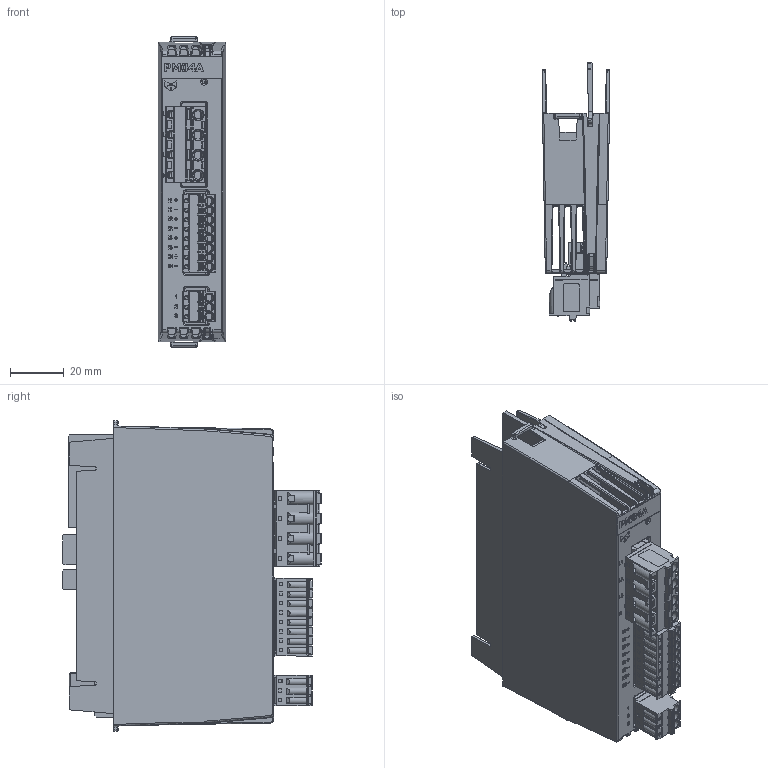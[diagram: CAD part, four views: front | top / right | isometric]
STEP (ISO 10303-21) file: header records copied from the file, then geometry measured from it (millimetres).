
FILE_DESCRIPTION(/* description */ (''),/* implementation_level */ '2;1');
FILE_NAME(/* name */ 'C:\Users\Public\Documents\Autodesk\Inventor 2023\PM04A_Simplified.stp',/* time_stamp */ '2024-10-18T22:19:27+02:00',/* author */ ('shoma'),/* organization */ (''),/* preprocessor_version */ 'ST-DEVELOPER v19',/* originating_system */ 'Autodesk Inventor 2023',/* authorisation */ '');
FILE_SCHEMA (('AUTOMOTIVE_DESIGN { 1 0 10303 214 3 1 1 }'));
Products named in the file (1): PM04A_Simplified
Bounding box: 24.95 x 96.19 x 115.5 mm (x, y, z)
Volume: 113438.5 mm3; surface area: 62563.4 mm2
Topology: 1 solids, 34 shells, 5345 faces, 14368 edges, 9192 vertices
Faces by surface type: plane 3935, cylinder 1009, bspline 229, cone 123, torus 26, sphere 23
Full cylindrical faces by diameter (mm): 0.296 x2, 0.434 x1, 0.457 x2, 1.17 x11, 1.25 x11, 1.3 x11, 1.4 x4, 1.5 x4, 1.6 x7, 2.5 x1, 2.8 x3, 3 x4, 3.1 x11, 4 x4
Entity records: 177062 total; most frequent: CARTESIAN_POINT 36998, ORIENTED_EDGE 28642, DIRECTION 27062, EDGE_CURVE 14321, LINE 11148, VECTOR 11148, VERTEX_POINT 9188, AXIS2_PLACEMENT_3D 7957
